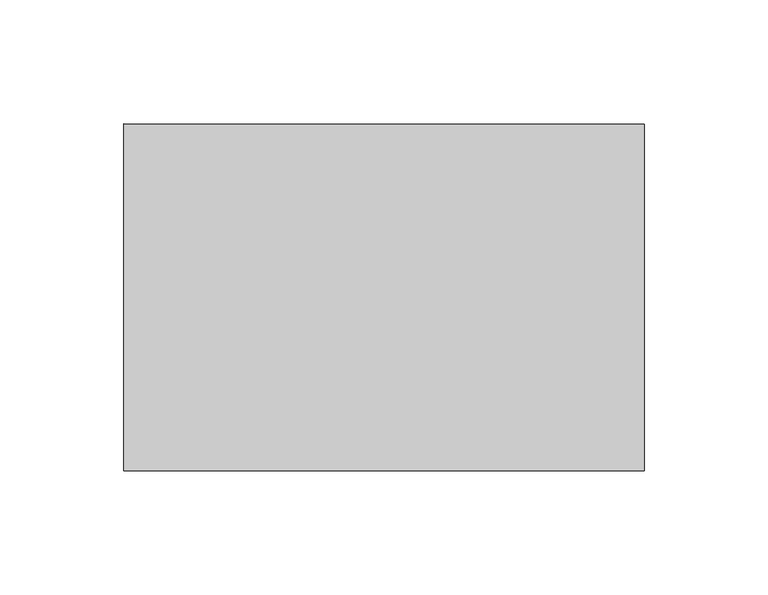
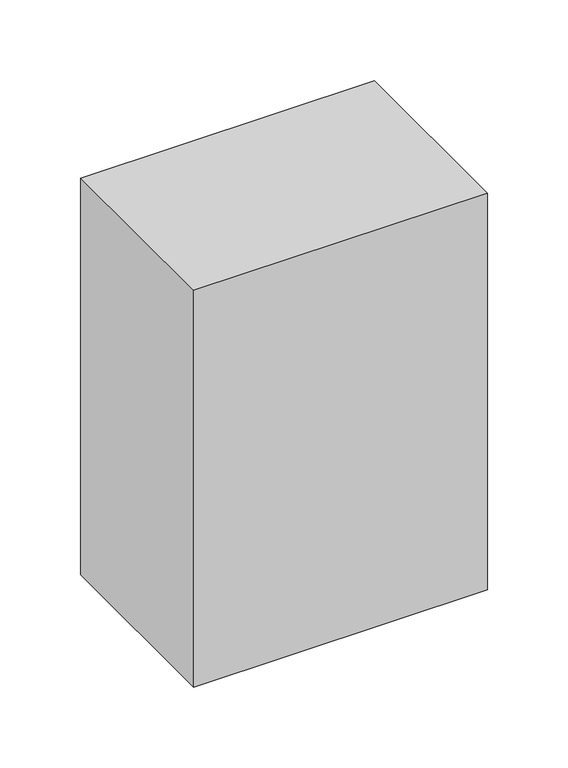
"""IFC4 building model written with IfcOpenShell, lengths in millimetres: proxy geometry."""

from ifc_helpers import new_model, si_unit, frame, origin, place, context, project, spatial, polyline, outline, extrude, source, transform, mapped, element, save


def structural_framing_6e33099d(model_context):
    return source(origin(), model_context, "Body", "SweptSolid", [
        extrude(outline(polyline([(-105.0375, -69.9624911), (-104.9875, 70.0375), (105.0375, 69.9624911), (104.9875, -70.0375), (-105.0375, -69.9624911)])), frame((0.0, 0.0, -300.0), z_axis=(0.0, 0.0, 1.0), x_axis=(1.0, 0.0, 0.0)), (0.0, 0.0, 1.0), 300.0),
    ])


if __name__ == "__main__":
    model = new_model("IFC4")
    model_context = context("Model", 3, world=origin())
    ifc_project = project(units=[si_unit("LENGTHUNIT", "METRE", prefix="MILLI")], contexts=[model_context])
    site = spatial("IfcSite", under=ifc_project)
    building = spatial("IfcBuilding", under=site)
    placement = place(None, origin())
    structural_framing_shape = structural_framing_6e33099d(model_context)
    element("IfcBuildingElementProxy", 1, Name="Structural Framing", at=placement, inside=building, context=model_context, shape_type="MappedRepresentation", body=[
        mapped(structural_framing_shape, transform((0.0, 0.0, 0.0), x_axis=(1.0, 0.0, 0.0), y_axis=(0.0, 1.0, 0.0), z_axis=(0.0, 0.0, 1.0))),
    ])
    save(model, "model.ifc")
